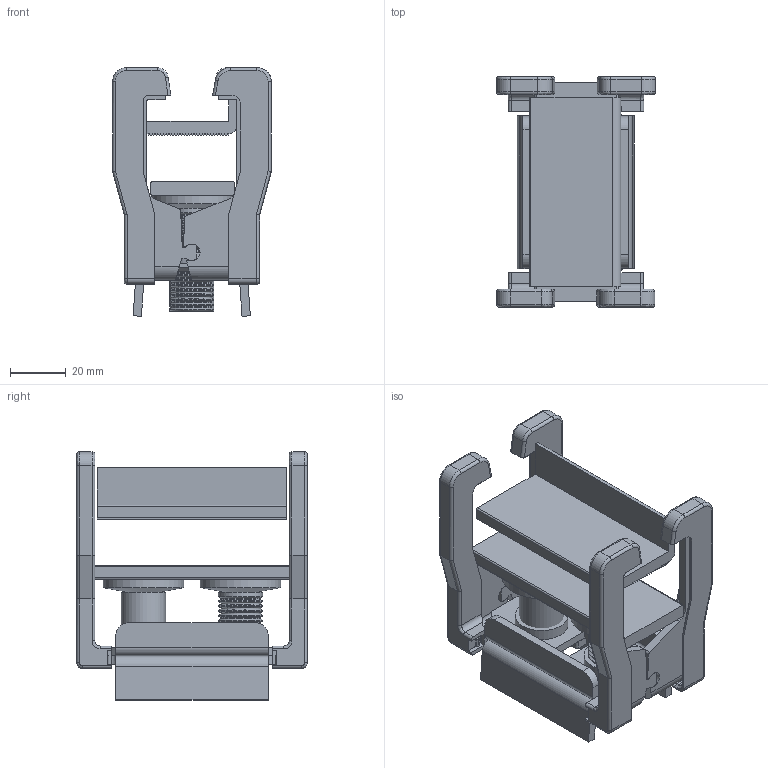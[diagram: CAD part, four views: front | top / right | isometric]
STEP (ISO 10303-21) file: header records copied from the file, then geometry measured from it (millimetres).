
FILE_DESCRIPTION (( 'STEP AP203' ), '1' );
FILE_NAME ('54070.STEP', '2021-08-14T01:14:12', ( '' ), ( '' ), 'SwSTEP 2.0', 'SolidWorks 2017', '' );
FILE_SCHEMA (( 'CONFIG_CONTROL_DESIGN' ));
Length unit declared in the file: millimetre
Products named in the file (2): 54070
Bounding box: 57.2 x 83 x 89.5 mm (x, y, z)
Volume: 87119.5 mm3; surface area: 63701.6 mm2
Topology: 9 solids, 9 shells, 957 faces, 2591 edges, 1646 vertices
Faces by surface type: plane 469, cylinder 357, cone 65, bspline 54, torus 12
Full cylindrical faces by diameter (mm): 8 x2, 10 x4, 14.343 x20, 14.5 x2, 16 x22, 19 x2, 29 x2
Entity records: 32037 total; most frequent: CARTESIAN_POINT 8449, ORIENTED_EDGE 4912, DIRECTION 4805, EDGE_CURVE 2456, VERTEX_POINT 1616, AXIS2_PLACEMENT_3D 1605, LINE 1595, VECTOR 1595
